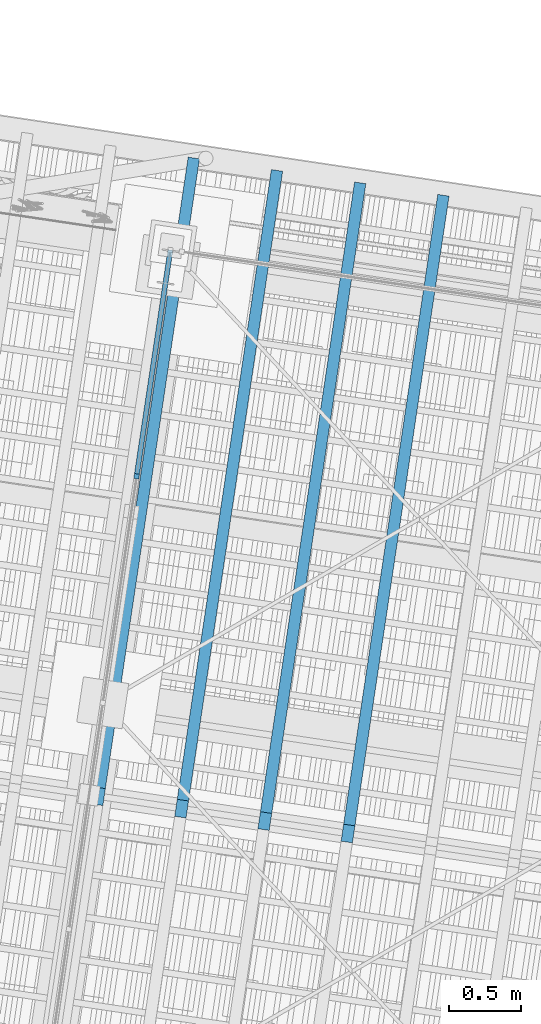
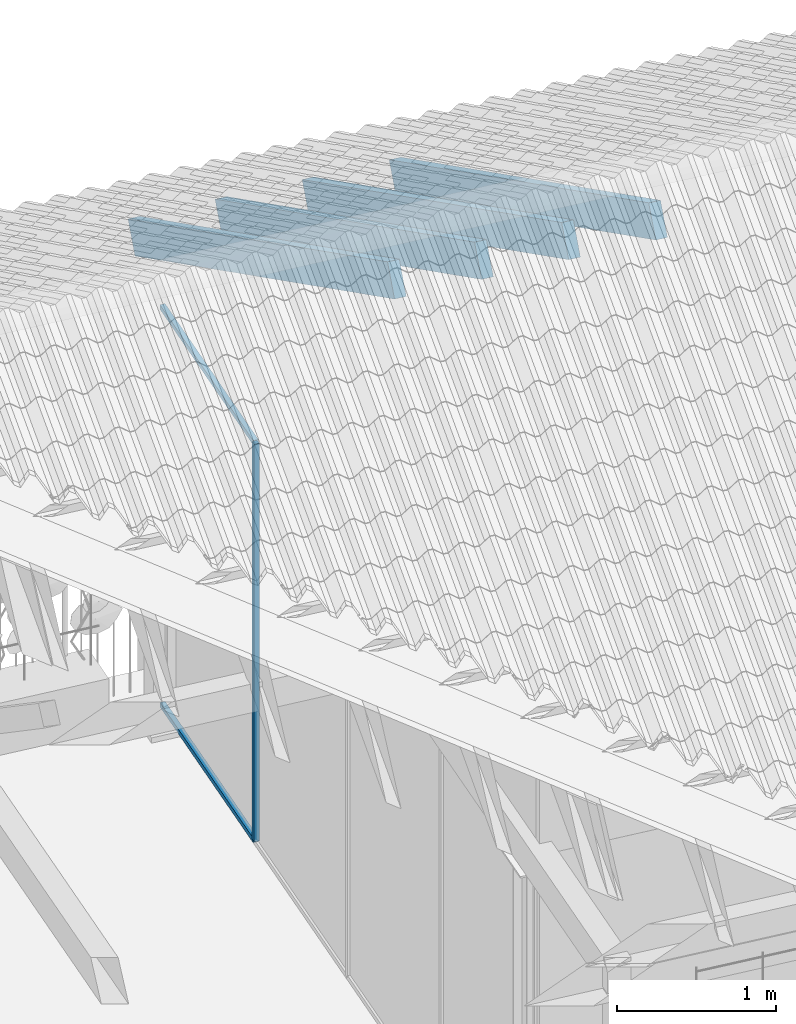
# One storey, part 26 of 131: 8 members, 1 element without a shape of its own.
"""IFC4 building model written with IfcOpenShell, lengths in metres."""

from ifc_helpers import new_model, si_unit, direction, frame, origin_with_axes, place, context, subcontext, project, spatial, rectangle, extrude, material, material_profile, profile_set, profile_usage, type_object, element, aggregate, save


model = new_model("IFC4")

# Units and contexts
model_context = context("Model", 3, precision=1e-05, world=origin_with_axes(), true_north=direction((0.0, 1.0)))
body_context = subcontext(model_context, "Body", "Model", "MODEL_VIEW")
ifc_project = project(units=[si_unit("VOLUMEUNIT", "CUBIC_METRE"), si_unit("LENGTHUNIT", "METRE"), si_unit("AREAUNIT", "SQUARE_METRE")], contexts=[model_context])

# Site, building, storey
site_placement = place(None, origin_with_axes())
site = spatial("IfcSite", under=ifc_project, at=site_placement, Name="Lares · Rua das Mercês · artigo 4771")
building_placement = place(site_placement, frame((15.0, 9.7, 15.8), z_axis=(0.0, 0.0, 1.0), x_axis=(0.989015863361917, -0.147809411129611, 0.0)))
building = spatial("IfcBuilding", under=site, at=building_placement, Name="Casa Sobreposta")
storey_placement = place(building_placement, origin_with_axes())
storey = spatial("IfcBuildingStorey", under=building, at=storey_placement, Name="00 · Habitação e estacionamento", Elevation=15.8)

# Members
ifc_material_1 = material(Name="Aço pintado / Stahl lackiert", Category="steel")
ifc_material_profile_1 = material_profile(ifc_material_1, rectangle(XDim=0.035, YDim=0.035))
ifc_profile_set_1 = profile_set([ifc_material_profile_1], Name="R0.035")
ifc_profile_usage_1 = profile_usage(ifc_profile_set_1)
member_type_1 = type_object("IfcMemberType", Name="R0.035 / steel", PredefinedType="NOTDEFINED", material=ifc_profile_set_1)
member_1_placement = place(storey_placement, frame((0.0, 4.8, 0.0), z_axis=(0.0, 0.0, 1.0), x_axis=(1.0, 0.0, 0.0)))
element("IfcMember", 1, at=member_1_placement, inside=storey, type_object=member_type_1, material=ifc_profile_usage_1, context=body_context, shape_type="SweptSolid", body=[
    extrude(rectangle(XDim=0.035, YDim=0.035), origin_with_axes(), (0.0, 0.0, 1.0), 3.05),
])
ifc_profile_usage_2 = profile_usage(ifc_profile_set_1)
member_2_placement = place(storey_placement, frame((0.0, 4.8, 0.0), z_axis=(0.0, 0.0, 1.0), x_axis=(1.0, 0.0, 0.0)))
element("IfcMember", 2, at=member_2_placement, inside=storey, type_object=member_type_1, material=ifc_profile_usage_2, context=body_context, shape_type="SweptSolid", body=[
    extrude(rectangle(XDim=0.035, YDim=0.035), origin_with_axes(), (0.0, 0.0, 1.0), 3.05),
])
ifc_profile_usage_3 = profile_usage(ifc_profile_set_1)
member_3_placement = place(storey_placement, frame((0.0, 4.8, 0.0), z_axis=(0.0, 1.0, 0.0), x_axis=(1.0, 0.0, 0.0)))
element("IfcMember", 3, at=member_3_placement, inside=storey, type_object=member_type_1, material=ifc_profile_usage_3, Name="Fachada poente integralmente envidraçada · módulo 4 · travessa", context=body_context, shape_type="SweptSolid", body=[
    extrude(rectangle(XDim=0.035, YDim=0.035), origin_with_axes(), (0.0, 0.0, 1.0), 1.6),
])
ifc_profile_usage_4 = profile_usage(ifc_profile_set_1)
member_4_placement = place(storey_placement, frame((0.0, 4.8, 3.05), z_axis=(0.0, 1.0, 0.0), x_axis=(1.0, 0.0, 0.0)))
element("IfcMember", 4, at=member_4_placement, inside=storey, type_object=member_type_1, material=ifc_profile_usage_4, Name="Fachada poente integralmente envidraçada · módulo 4 · travessa", context=body_context, shape_type="SweptSolid", body=[
    extrude(rectangle(XDim=0.035, YDim=0.035), origin_with_axes(), (0.0, 0.0, 1.0), 1.6),
])

# Roof, members
ifc_material_2 = material(Name="Madeira / Bauholz", Category="wood")
roof_placement = place(storey_placement, origin_with_axes())
roof = element("IfcRoof", 5, at=roof_placement, inside=storey, material=ifc_material_2, Name="Cobertura de telha · duas águas 30 graus", PredefinedType="GABLE_ROOF")
ifc_material_profile_2 = material_profile(ifc_material_2, rectangle(XDim=0.08, YDim=0.24))
ifc_profile_set_2 = profile_set([ifc_material_profile_2], Name="TIMBER0.080x0.240")
ifc_profile_usage_5 = profile_usage(ifc_profile_set_2)
member_type_2 = type_object("IfcMemberType", Name="TIMBER0.080x0.240 / timber", PredefinedType="NOTDEFINED", material=ifc_profile_set_2)
member_5_placement = place(roof_placement, frame((0.0666666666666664, 2.55, 5.75020869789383), z_axis=(0.0, 0.866025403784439, -0.5), x_axis=(1.0, 0.0, 0.0)))
member_5 = element("IfcMember", 6, at=member_5_placement, type_object=member_type_2, material=ifc_profile_usage_5, Name="Cobertura · caibro", context=body_context, shape_type="SweptSolid", body=[
    extrude(rectangle(XDim=0.08, YDim=0.24), origin_with_axes(), (0.0, 0.0, 1.0), 5.13841739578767),
])
ifc_profile_usage_6 = profile_usage(ifc_profile_set_2)
member_6_placement = place(roof_placement, frame((0.654545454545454, 2.55, 5.75020869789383), z_axis=(0.0, 0.866025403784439, -0.5), x_axis=(1.0, 0.0, 0.0)))
member_6 = element("IfcMember", 7, at=member_6_placement, type_object=member_type_2, material=ifc_profile_usage_6, Name="Cobertura · caibro", context=body_context, shape_type="SweptSolid", body=[
    extrude(rectangle(XDim=0.08, YDim=0.24), origin_with_axes(), (0.0, 0.0, 1.0), 5.13841739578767),
])
ifc_profile_usage_7 = profile_usage(ifc_profile_set_2)
member_7_placement = place(roof_placement, frame((1.24242424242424, 2.55, 5.75020869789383), z_axis=(0.0, 0.866025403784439, -0.5), x_axis=(1.0, 0.0, 0.0)))
member_7 = element("IfcMember", 8, at=member_7_placement, type_object=member_type_2, material=ifc_profile_usage_7, Name="Cobertura · caibro", context=body_context, shape_type="SweptSolid", body=[
    extrude(rectangle(XDim=0.08, YDim=0.24), origin_with_axes(), (0.0, 0.0, 1.0), 5.13841739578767),
])
ifc_profile_usage_8 = profile_usage(ifc_profile_set_2)
member_8_placement = place(roof_placement, frame((1.83030303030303, 2.55, 5.75020869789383), z_axis=(0.0, 0.866025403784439, -0.5), x_axis=(1.0, 0.0, 0.0)))
member_8 = element("IfcMember", 9, at=member_8_placement, type_object=member_type_2, material=ifc_profile_usage_8, Name="Cobertura · caibro", context=body_context, shape_type="SweptSolid", body=[
    extrude(rectangle(XDim=0.08, YDim=0.24), origin_with_axes(), (0.0, 0.0, 1.0), 5.13841739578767),
])
aggregate(roof, [member_5, member_6, member_7, member_8])

save(model, "model.ifc")
